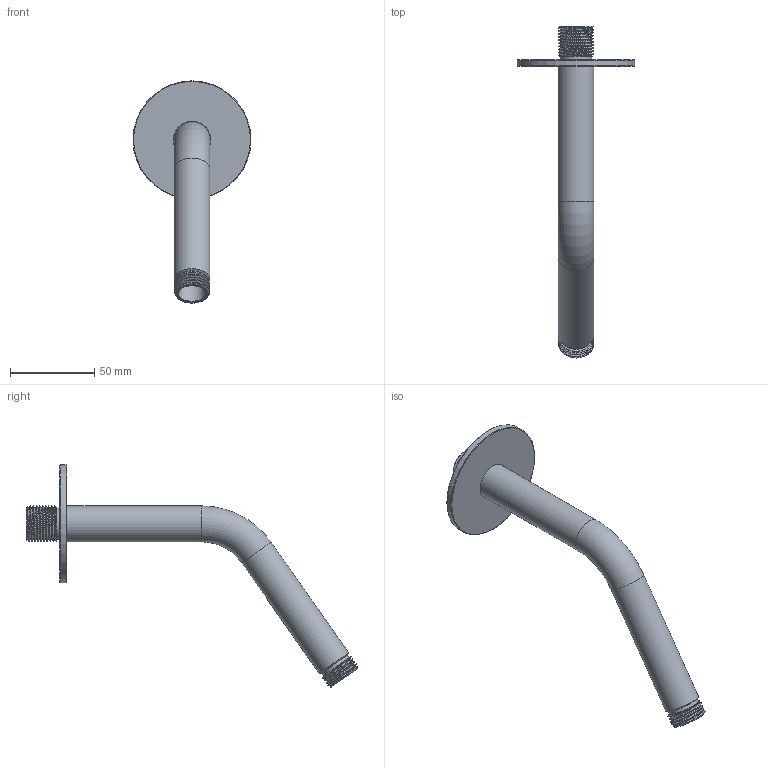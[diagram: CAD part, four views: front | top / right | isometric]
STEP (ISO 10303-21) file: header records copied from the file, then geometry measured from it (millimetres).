
FILE_DESCRIPTION(/* description */ ('Unknown'),/* implementation_level */ '2;1');
FILE_NAME(/* name */ 'RE036',/* time_stamp */ '2023-07-26T16:27:44+02:00',/* author */ ('Unknown'),/* organization */ ('Unknown'),/* preprocessor_version */ 'ST-DEVELOPER v18.102',/* originating_system */ 'Solid Edge',/* authorisation */ 'Unknown');
FILE_SCHEMA (('AUTOMOTIVE_DESIGN {1 0 10303 214 3 1 1}'));
Length unit declared in the file: millimetre
Products named in the file (4): RE036; C021092_22300ZZ; C073027_22300VC; C140006_00600ZZ
Assembly tree (3 placements, depth 2):
  RE036
    C021092_22300ZZ
    C073027_22300VC
    C140006_00600ZZ
Bounding box: 70 x 196.92 x 131.91 mm (x, y, z)
Volume: 48438.3 mm3; surface area: 37536.3 mm2
Topology: 3 solids, 3 shells, 51 faces, 116 edges, 73 vertices
Faces by surface type: bspline 15, cylinder 13, plane 10, cone 8, torus 5
Full cylindrical faces by diameter (mm): 16 x2, 18.6 x2, 21.3 x2, 21.5 x1, 24.6 x1, 70 x1
Entity records: 4593 total; most frequent: CARTESIAN_POINT 3576, ORIENTED_EDGE 180, DIRECTION 154, EDGE_CURVE 90, FACE_BOUND 77, EDGE_LOOP 76, AXIS2_PLACEMENT_3D 76, VERTEX_POINT 67
